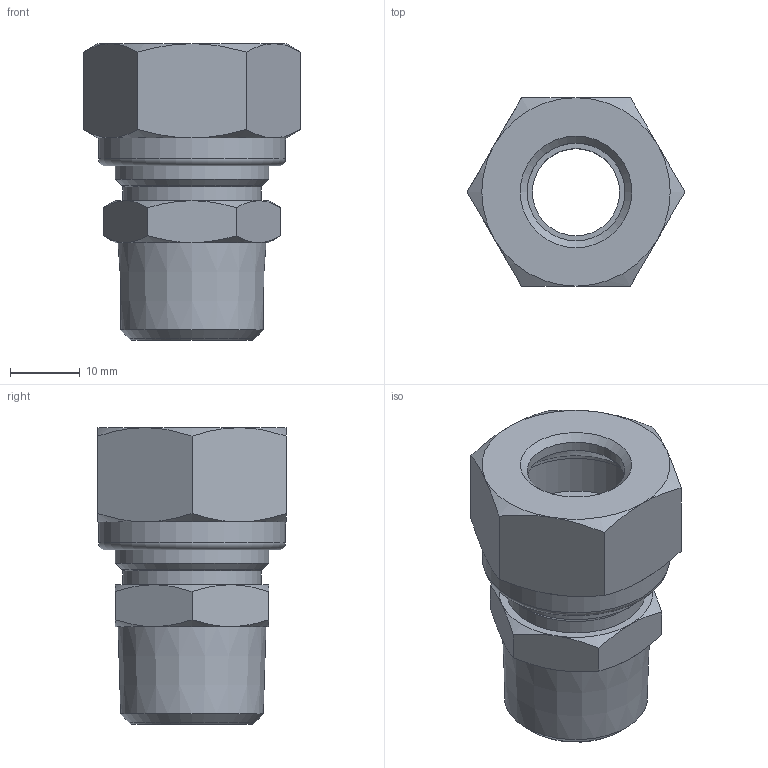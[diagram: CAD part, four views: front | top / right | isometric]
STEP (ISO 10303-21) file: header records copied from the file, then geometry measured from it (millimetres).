
FILE_DESCRIPTION(('Bauteilbeschreibung','HiCAD-Model','HiCAD-STEP-TRANSLATION','Bauteilbeschreibung'),'2;1');
FILE_NAME('B:/ABGLEICH/ZEICHNUNGEN/STEP FÜR INTERNET/STEP/201/94821_201_14_1-2.STP','2012-01-19T14:07:41+00:00',('Konstrukteur'),('Konstrukteur Firma GmbH'),' HiCAD neXt 2008, Step 3.1.1401.2J ','HiCAD neXt 2008','confidential');
FILE_SCHEMA(('AUTOMOTIVE_DESIGN { 1 2 10303 214 0 1 1 1 }'));
Length unit declared in the file: millimetre
Products named in the file (8): A4821_201_14_1_2; A4821; A48210; R 1_2_14; DIN 13_M22X1_5; A6806; A68060; DIN0130M22X105
Assembly tree (7 placements, depth 3):
  A4821_201_14_1_2
    A4821
    A48210
      R 1_2_14
      DIN 13_M22X1_5
    A6806
    A68060
      DIN0130M22X105
Bounding box: 31.18 x 27 x 42.5 mm (x, y, z)
Volume: 12653.5 mm3; surface area: 11682.3 mm2
Topology: 5 solids, 5 shells, 75 faces, 161 edges, 97 vertices
Faces by surface type: cone 39, plane 23, cylinder 12, torus 1
Full cylindrical faces by diameter (mm): 12.5 x1, 14 x2, 19.8 x1, 20.16 x4, 22 x3, 26.8 x1
Entity records: 2546 total; most frequent: CARTESIAN_POINT 391, DIRECTION 312, ORIENTED_EDGE 242, AXIS2_PLACEMENT_3D 150, COLOUR_RGB 126, PRESENTATION_STYLE_ASSIGNMENT 126, CURVE_STYLE 121, DRAUGHTING_PRE_DEFINED_CURVE_FONT 121
